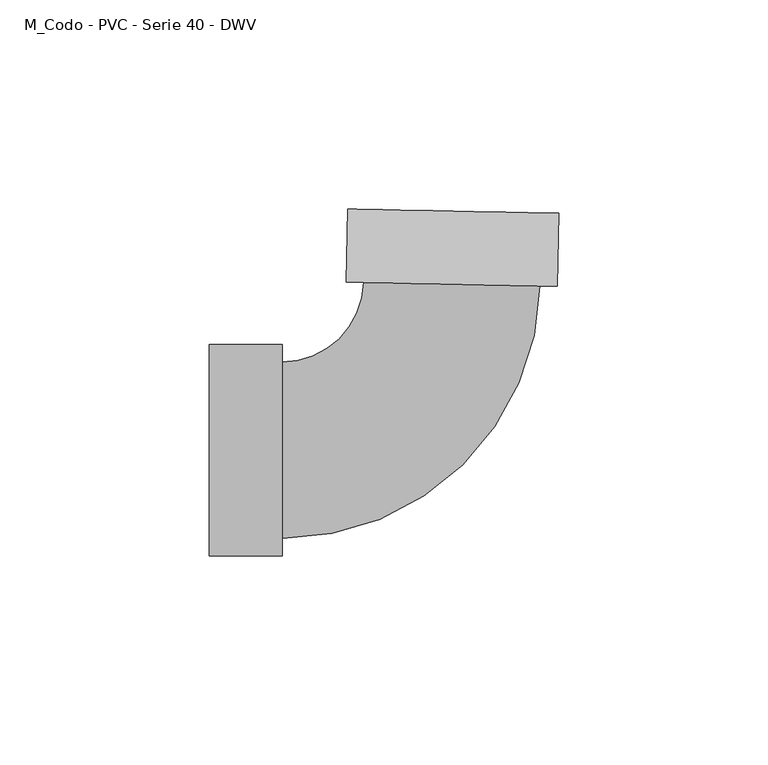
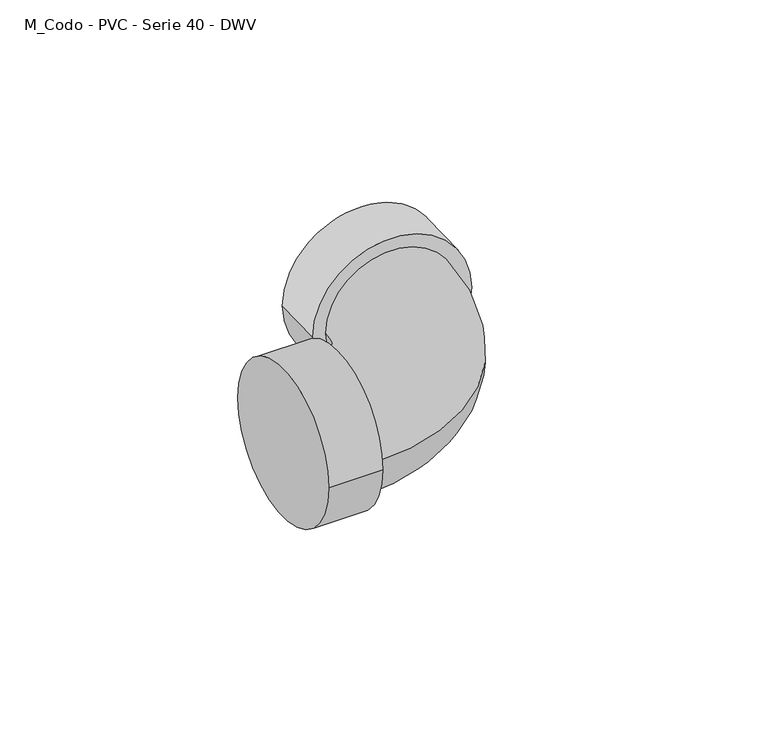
"""IFC4 building model written with IfcOpenShell, lengths in millimetres: pipe fitting geometry, M_Codo - PVC - Serie 40 - DWV : Estándar."""

from ifc_helpers import new_model, si_unit, point, frame, origin, place, context, project, spatial, circle_curve, ellipse_curve, trimmed, source, transform, mapped, element, save
from ifc_brep_helpers import plane_surface, cylinder_surface, revolved_surface, advanced_brep


def m_codo_pvc_serie_40_dwv_140f2321(model_context):
    return source(origin(), model_context, "Body", "AdvancedBrep", [
        advanced_brep(
        [(-57.15, -25.2349, 0.0), (-57.15, 25.2349, 0.0), (-39.7002, -25.2349, 0.0), (-39.7002, 25.2349, 0.0), (-39.7002, -21.082, 0.0), (-39.7002, 21.082, 0.0), (-20.2839396, 40.113818, 0.0), (21.8716301, 39.2707066, 0.0), (26.0236998, 39.1876653, 0.0), (-24.4360093, 40.1968594, 0.0), (26.372626, 56.6339763, 0.0), (-24.0870831, 57.6431705, 0.0)],
        [
            (0, 1, circle_curve(frame((-57.15, 0.0, 0.0), z_axis=(-1.0, 0.0, 0.0), x_axis=(0.0, 1.0, 0.0)), 25.2349)),
            (1, 0, circle_curve(frame((-57.15, 0.0, 0.0), z_axis=(-1.0, 0.0, 0.0), x_axis=(0.0, 1.0, 0.0)), 25.2349)),
            (2, 3, circle_curve(frame((-39.7002, 0.0, 0.0), z_axis=(1.0, 0.0, 0.0), x_axis=(0.0, 1.0, 0.0)), 25.2349)),
            (3, 2, circle_curve(frame((-39.7002, 0.0, 0.0), z_axis=(1.0, 0.0, 0.0), x_axis=(0.0, 1.0, 0.0)), 25.2349)),
            (4, 5, circle_curve(frame((-39.7002, 0.0, 0.0), z_axis=(-1.0, 0.0, 0.0), x_axis=(0.0, 1.0, 0.0)), 21.082)),
            (5, 4, circle_curve(frame((-39.7002, 0.0, 0.0), z_axis=(-1.0, 0.0, 0.0), x_axis=(0.0, 1.0, 0.0)), 21.082)),
            (0, 2),
            (3, 1),
            (6, 5, circle_curve(frame((-39.7002, 40.5021432, 0.0), z_axis=(0.0, 0.0, -1.0), x_axis=(0.0, -1.0, 0.0)), 19.4201432)),
            (4, 7, circle_curve(frame((-39.7002, 40.5021432, 0.0), z_axis=(0.0, 0.0, 1.0), x_axis=(0.0, -1.0, 0.0)), 61.5841432)),
            (7, 6, circle_curve(frame((0.7938452, 39.6922623, 0.0), z_axis=(-0.019996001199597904, -0.999800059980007, 0.0), x_axis=(-0.999800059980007, 0.019996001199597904, 0.0)), 21.082)),
            (6, 7, circle_curve(frame((0.7938452, 39.6922623, 0.0), z_axis=(-0.019996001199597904, -0.999800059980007, 0.0), x_axis=(-0.999800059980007, 0.019996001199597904, 0.0)), 21.082)),
            (8, 9, circle_curve(frame((0.7938452, 39.6922623, 0.0), z_axis=(-0.019996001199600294, -0.999800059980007, 0.0), x_axis=(-0.999800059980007, 0.019996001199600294, 0.0)), 25.2349)),
            (9, 8, circle_curve(frame((0.7938452, 39.6922623, 0.0), z_axis=(-0.019996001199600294, -0.999800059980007, 0.0), x_axis=(-0.999800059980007, 0.019996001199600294, 0.0)), 25.2349)),
            (10, 11, circle_curve(frame((1.1427715, 57.1385734, 0.0), z_axis=(0.019996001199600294, 0.999800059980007, 0.0), x_axis=(-0.999800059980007, 0.019996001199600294, 0.0)), 25.2349)),
            (11, 10, circle_curve(frame((1.1427715, 57.1385734, 0.0), z_axis=(0.019996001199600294, 0.999800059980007, 0.0), x_axis=(-0.999800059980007, 0.019996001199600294, 0.0)), 25.2349)),
            (8, 10),
            (11, 9),
        ],
        [
            plane_surface(frame((-57.15, 0.0, 0.0), z_axis=(-1.0, 0.0, 0.0), x_axis=(0.0, 0.0, 1.0))),
            plane_surface(frame((-39.7002, 0.0, 0.0), z_axis=(1.0, 0.0, 0.0), x_axis=(0.0, 0.0, 1.0))),
            cylinder_surface(frame((-57.15, 0.0, 0.0), z_axis=(-1.0, 0.0, 0.0), x_axis=(0.0, 1.0, 0.0)), 25.2349),
            revolved_surface(trimmed(ellipse_curve(frame((-39.7002, 0.0, 0.0), z_axis=(-1.0, 0.0, 0.0), x_axis=(0.0, 1.0, 0.0)), 21.082, 21.082), [point((-39.7002, -21.082, 0.0))], [point((-39.7002, 21.082, 0.0))], True, "CARTESIAN"), (-39.7002, 40.5021432, 0.0), (0.0, 0.0, 1.0)),
            revolved_surface(trimmed(ellipse_curve(frame((-39.7002, 0.0, 0.0), z_axis=(-1.0, 0.0, 0.0), x_axis=(0.0, 1.0, 0.0)), 21.082, 21.082), [point((-39.7002, 21.082, 0.0))], [point((-39.7002, -21.082, 0.0))], True, "CARTESIAN"), (-39.7002, 40.5021432, 0.0), (0.0, 0.0, 1.0)),
            plane_surface(frame((0.7938452, 39.6922623, 0.0), z_axis=(-0.019996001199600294, -0.999800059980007, 0.0), x_axis=(0.0, 0.0, 1.0))),
            plane_surface(frame((1.1427715, 57.1385734, 0.0), z_axis=(0.019996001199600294, 0.999800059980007, 0.0), x_axis=(0.0, 0.0, 1.0))),
            cylinder_surface(frame((0.7938452, 39.6922623, 0.0), z_axis=(-0.019996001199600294, -0.999800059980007, 0.0), x_axis=(-0.999800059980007, 0.019996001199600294, 0.0)), 25.2349),
        ],
        [
            (0, [[1, 2]]),
            (1, [[3, 4], [5, 6]]),
            (2, [[-1, 7, -4, 8]]),
            (2, [[-2, -8, -3, -7]]),
            (3, [[9, -5, 10, 11]]),
            (4, [[-9, 12, -10, -6]]),
            (5, [[13, 14], [-11, -12]]),
            (6, [[15, 16]]),
            (7, [[-13, 17, -16, 18]]),
            (7, [[-14, -18, -15, -17]]),
        ],
    ),
    ])


if __name__ == "__main__":
    model = new_model("IFC4")
    model_context = context("Model", 3, world=origin())
    ifc_project = project(units=[si_unit("LENGTHUNIT", "METRE", prefix="MILLI")], contexts=[model_context])
    site = spatial("IfcSite", under=ifc_project)
    building = spatial("IfcBuilding", under=site)
    placement = place(None, origin())
    m_codo_pvc_serie_40_dwv_shape = m_codo_pvc_serie_40_dwv_140f2321(model_context)
    element("IfcPipeFitting", 1, ObjectType="M_Codo - PVC - Serie 40 - DWV : Estándar", at=placement, inside=building, context=model_context, shape_type="MappedRepresentation", body=[
        mapped(m_codo_pvc_serie_40_dwv_shape, transform((0.0, 0.0, 0.0), x_axis=(1.0, 0.0, 0.0), y_axis=(0.0, 1.0, 0.0), z_axis=(0.0, 0.0, 1.0))),
    ])
    save(model, "model.ifc")
